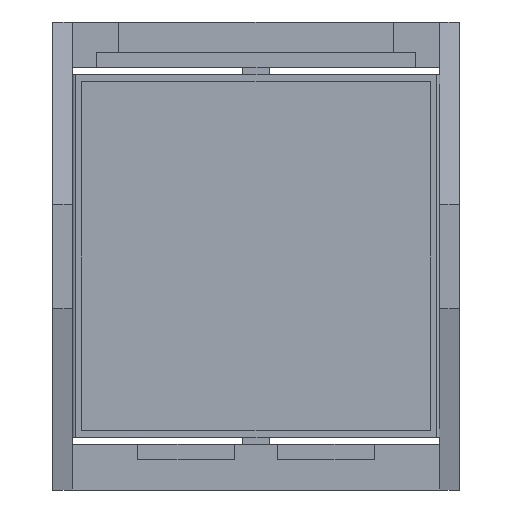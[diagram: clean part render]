
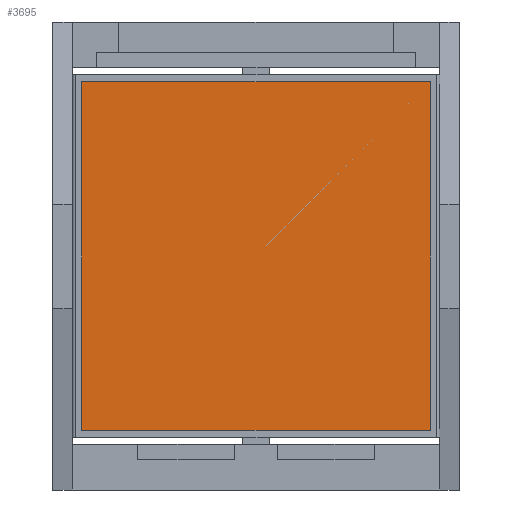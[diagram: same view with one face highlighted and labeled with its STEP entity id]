
A CAD part, front view. The second image highlights one B-rep face of the part: STEP entity #3695.
In plain terms, the highlighted planar face has unit normal (0, -1, 0).
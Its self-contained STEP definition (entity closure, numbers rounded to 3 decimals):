
#15 = CARTESIAN_POINT ( 'NONE',  ( 12.7, -0.127, -12.7 ) ) ;
#109 = VECTOR ( 'NONE', #5059, 1000. ) ;
#276 = VERTEX_POINT ( 'NONE', #3946 ) ;
#600 = PLANE ( 'NONE',  #4408 ) ;
#658 = EDGE_CURVE ( 'NONE', #1047, #2661, #4840, .T. ) ;
#884 = CARTESIAN_POINT ( 'NONE',  ( -12.7, -0.127, -12.7 ) ) ;
#1047 = VERTEX_POINT ( 'NONE', #3324 ) ;
#1435 = ORIENTED_EDGE ( 'NONE', *, *, #6777, .F. ) ;
#1707 = CARTESIAN_POINT ( 'NONE',  ( -12.7, -0.127, 12.7 ) ) ;
#1866 = ORIENTED_EDGE ( 'NONE', *, *, #6102, .F. ) ;
#1937 = VECTOR ( 'NONE', #6319, 1000. ) ;
#1992 = EDGE_CURVE ( 'NONE', #276, #1047, #7703, .T. ) ;
#2084 = VECTOR ( 'NONE', #6969, 1000. ) ;
#2621 = CARTESIAN_POINT ( 'NONE',  ( -12.7, -0.127, -12.7 ) ) ;
#2661 = VERTEX_POINT ( 'NONE', #2788 ) ;
#2788 = CARTESIAN_POINT ( 'NONE',  ( 12.7, -0.127, 12.7 ) ) ;
#3324 = CARTESIAN_POINT ( 'NONE',  ( -12.7, -0.127, 12.7 ) ) ;
#3423 = CARTESIAN_POINT ( 'NONE',  ( 12.7, -0.127, -12.7 ) ) ;
#3568 = DIRECTION ( 'NONE',  ( 0., 1., 0. ) ) ;
#3695 = ADVANCED_FACE ( 'NONE', ( #5434 ), #600, .F. ) ;
#3784 = ORIENTED_EDGE ( 'NONE', *, *, #658, .F. ) ;
#3946 = CARTESIAN_POINT ( 'NONE',  ( -12.7, -0.127, -12.7 ) ) ;
#4408 = AXIS2_PLACEMENT_3D ( 'NONE', #6174, #3568, #7300 ) ;
#4445 = LINE ( 'NONE', #2621, #1937 ) ;
#4667 = VECTOR ( 'NONE', #7332, 1000. ) ;
#4840 = LINE ( 'NONE', #1707, #4667 ) ;
#5059 = DIRECTION ( 'NONE',  ( 0., 0., -1. ) ) ;
#5328 = VERTEX_POINT ( 'NONE', #3423 ) ;
#5434 = FACE_OUTER_BOUND ( 'NONE', #5572, .T. ) ;
#5482 = LINE ( 'NONE', #15, #109 ) ;
#5572 = EDGE_LOOP ( 'NONE', ( #6416, #1866, #1435, #3784 ) ) ;
#6102 = EDGE_CURVE ( 'NONE', #5328, #276, #4445, .T. ) ;
#6174 = CARTESIAN_POINT ( 'NONE',  ( -12.7, -0.127, 12.7 ) ) ;
#6319 = DIRECTION ( 'NONE',  ( -1., 0., 0. ) ) ;
#6416 = ORIENTED_EDGE ( 'NONE', *, *, #1992, .F. ) ;
#6777 = EDGE_CURVE ( 'NONE', #2661, #5328, #5482, .T. ) ;
#6969 = DIRECTION ( 'NONE',  ( 0., 0., 1. ) ) ;
#7300 = DIRECTION ( 'NONE',  ( 0., 0., 1. ) ) ;
#7332 = DIRECTION ( 'NONE',  ( 1., 0., 0. ) ) ;
#7703 = LINE ( 'NONE', #884, #2084 ) ;
